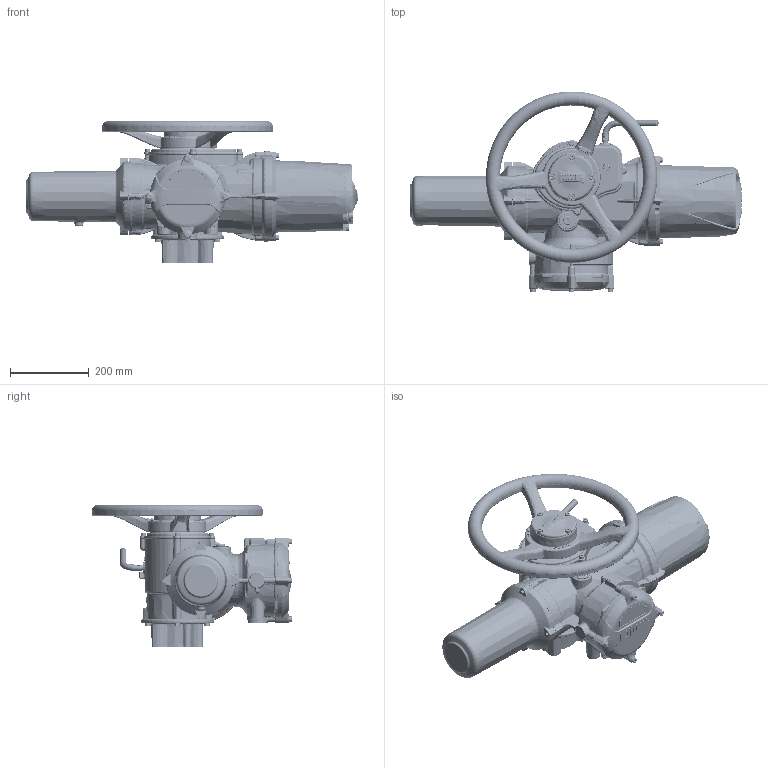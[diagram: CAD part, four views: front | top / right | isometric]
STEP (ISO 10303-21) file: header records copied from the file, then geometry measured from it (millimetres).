
FILE_DESCRIPTION(/* description */ ('Unknown'),/* implementation_level */ '2;1');
FILE_NAME(/* name */ 'IQ3H-2SP-THW-AZ3-1',/* time_stamp */ '2021-03-29T11:34:42+01:00',/* author */ ('Unknown'),/* organization */ ('Unknown'),/* preprocessor_version */ 'ST-DEVELOPER v16.7',/* originating_system */ 'Solid Edge',/* authorisation */ 'Unknown');
FILE_SCHEMA (('AUTOMOTIVE_DESIGN {1 0 10303 214 3 1 1}'));
Length unit declared in the file: millimetre
Products named in the file (1): IQ3H-2SP-THW-AZ3-1
Bounding box: 843.5 x 510.12 x 363.24 mm (x, y, z)
Volume: 109515.5 mm3; surface area: 1378166.1 mm2
Topology: 45 solids, 46 shells, 6198 faces, 15532 edges, 9295 vertices
Faces by surface type: bspline 2335, plane 1757, cylinder 763, torus 597, cone 564, sphere 182
Full cylindrical faces by diameter (mm): 1.152 x1, 3 x8, 3.54 x2, 4 x2, 4.76 x2, 4.78 x2, 4.917 x4, 6 x3, 6.45 x8, 6.47 x8, 6.5 x1, 7 x4, 7.6 x4, 8 x20, 8.1 x1, 8.2 x1, 8.5 x4, 9 x4, 10 x3, 11.78 x1, 13 x12, 13.25 x4, 14 x4, 15.5 x1, 15.84 x1, 16 x4, 24.78 x1, 58 x1, 60.99 x1, 64.95 x3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
Entity records: 273255 total; most frequent: CARTESIAN_POINT 104488, ORIENTED_EDGE 29318, DIRECTION 21554, EDGE_CURVE 14659, VERTEX_POINT 9050, AXIS2_PLACEMENT_3D 8987, FACE_BOUND 6815, EDGE_LOOP 6790
